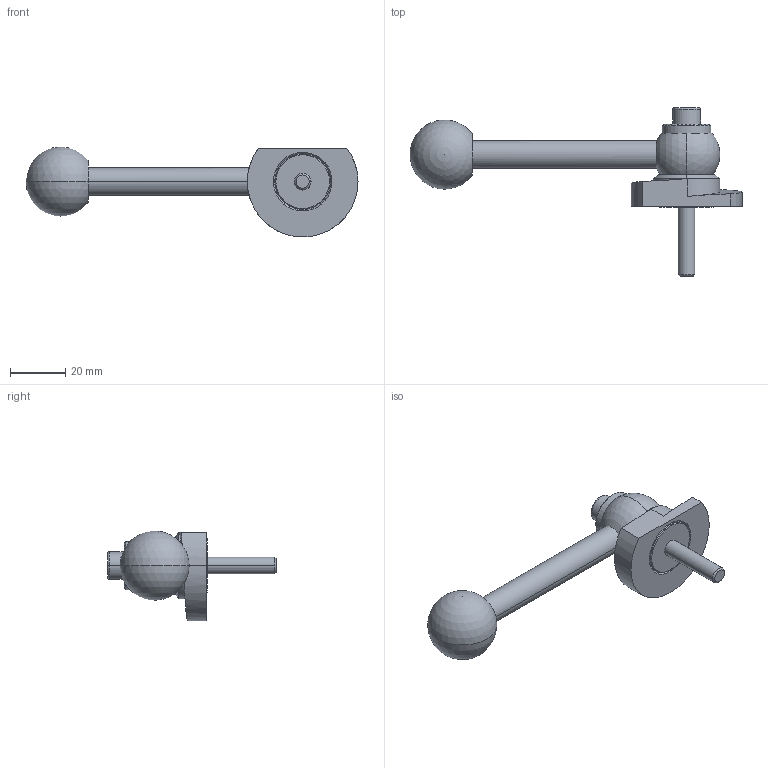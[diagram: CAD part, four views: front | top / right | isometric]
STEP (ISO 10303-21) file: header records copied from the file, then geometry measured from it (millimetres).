
FILE_DESCRIPTION (( 'STEP AP214' ), '1' );
FILE_NAME ('918.1-40-GVS-R-25.step', '2024-05-15T12:59:40', ( '' ), ( '' ), 'SwSTEP 2.0', 'SolidWorks 2022', '' );
FILE_SCHEMA (( 'AUTOMOTIVE_DESIGN' ));
Length unit declared in the file: millimetre
Products named in the file (1): 918.1-40-GVS-R-25
Bounding box: 120 x 61 x 32.5 mm (x, y, z)
Volume: 30214.6 mm3; surface area: 11210.3 mm2
Topology: 1 solids, 1 shells, 64 faces, 147 edges, 93 vertices
Faces by surface type: cylinder 22, plane 20, cone 14, sphere 4, torus 2, bspline 2
Entity records: 2045 total; most frequent: CARTESIAN_POINT 590, DIRECTION 321, ORIENTED_EDGE 274, EDGE_CURVE 137, AXIS2_PLACEMENT_3D 131, VERTEX_POINT 87, EDGE_LOOP 76, CIRCLE 68
